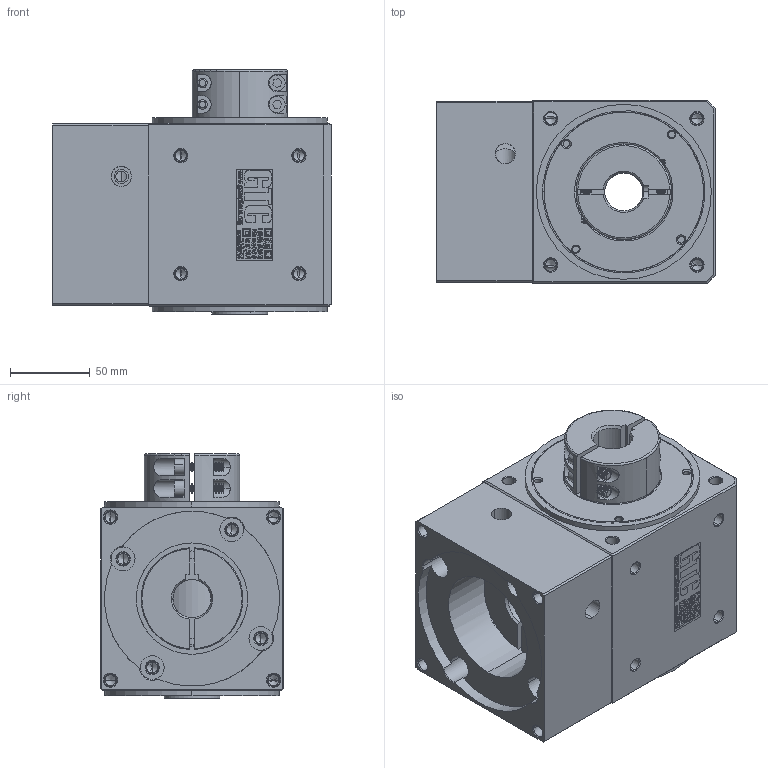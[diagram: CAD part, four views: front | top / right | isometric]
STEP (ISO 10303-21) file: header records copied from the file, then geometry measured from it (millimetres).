
FILE_DESCRIPTION (( 'STEP AP203' ), '1' );
FILE_NAME ('WS120F-2-24-110-145-M8.STEP', '2015-12-14T09:18:05', ( '稬硁ノめ' ), ( '芖稬硁' ), 'SwSTEP 2.0', 'SolidWorks 2012', '' );
FILE_SCHEMA (( 'CONFIG_CONTROL_DESIGN' ));
Products named in the file (1): WS120F-2-24-110-145-M8
Bounding box: 175.1 x 115 x 153.5 mm (x, y, z)
Volume: 1555393.3 mm3; surface area: 338072 mm2
Topology: 15 solids, 15 shells, 2414 faces, 5909 edges, 3670 vertices
Faces by surface type: plane 967, cone 695, cylinder 367, bspline 329, torus 56
Entity records: 83498 total; most frequent: CARTESIAN_POINT 28087, ORIENTED_EDGE 11738, DIRECTION 10767, EDGE_CURVE 5869, VERTEX_POINT 3670, AXIS2_PLACEMENT_3D 3596, VECTOR 3575, LINE 3575
